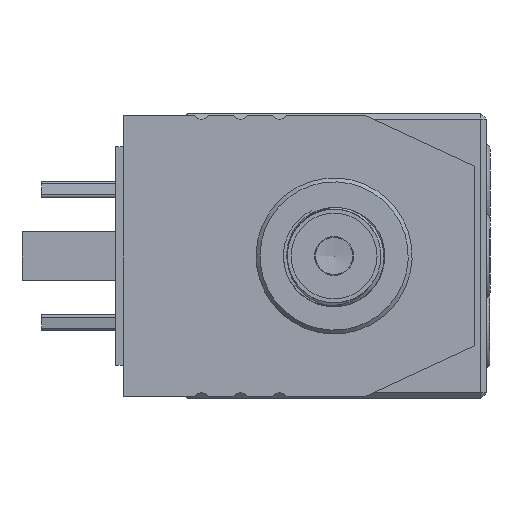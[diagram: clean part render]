
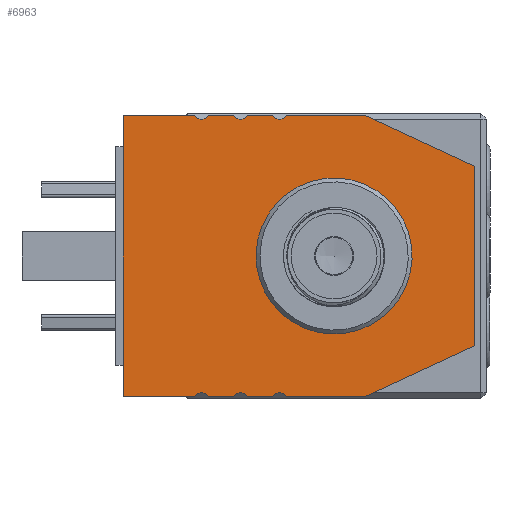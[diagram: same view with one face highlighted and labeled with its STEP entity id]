
A CAD part, left-side view. The second image highlights one B-rep face of the part: STEP entity #6963.
In plain terms, the highlighted planar face has unit normal (-1, 0, 0).
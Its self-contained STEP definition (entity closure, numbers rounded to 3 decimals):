
#916=LINE('',#14022,#1425);
#918=LINE('',#14027,#1427);
#924=LINE('',#14040,#1433);
#926=LINE('',#14045,#1435);
#932=LINE('',#14058,#1441);
#934=LINE('',#14063,#1443);
#941=LINE('',#14078,#1450);
#943=LINE('',#14083,#1452);
#953=LINE('',#14103,#1462);
#958=LINE('',#14113,#1467);
#959=LINE('',#14120,#1468);
#960=LINE('',#14124,#1469);
#1425=VECTOR('',#9890,1.);
#1427=VECTOR('',#9894,1.);
#1433=VECTOR('',#9902,1.);
#1435=VECTOR('',#9906,1.);
#1441=VECTOR('',#9914,1.);
#1443=VECTOR('',#9918,1.);
#1450=VECTOR('',#9927,1.);
#1452=VECTOR('',#9931,1.);
#1462=VECTOR('',#9947,1.);
#1467=VECTOR('',#9954,1.);
#1468=VECTOR('',#9965,1.);
#1469=VECTOR('',#9972,1.);
#1899=PLANE('',#8439);
#2491=EDGE_LOOP('',(#3942));
#2492=EDGE_LOOP('',(#3943,#3944,#3945,#3946,#3947,#3948,#3949,#3950,#3951,
#3952,#3953,#3954,#3955,#3956,#3957,#3958,#3959,#3960));
#3942=ORIENTED_EDGE('',*,*,#5081,.F.);
#3943=ORIENTED_EDGE('',*,*,#5040,.F.);
#3944=ORIENTED_EDGE('',*,*,#5082,.T.);
#3945=ORIENTED_EDGE('',*,*,#5038,.F.);
#3946=ORIENTED_EDGE('',*,*,#5083,.T.);
#3947=ORIENTED_EDGE('',*,*,#5054,.F.);
#3948=ORIENTED_EDGE('',*,*,#5084,.T.);
#3949=ORIENTED_EDGE('',*,*,#5063,.F.);
#3950=ORIENTED_EDGE('',*,*,#5085,.F.);
#3951=ORIENTED_EDGE('',*,*,#5065,.F.);
#3952=ORIENTED_EDGE('',*,*,#5086,.T.);
#3953=ORIENTED_EDGE('',*,*,#5056,.F.);
#3954=ORIENTED_EDGE('',*,*,#5087,.T.);
#3955=ORIENTED_EDGE('',*,*,#5048,.F.);
#3956=ORIENTED_EDGE('',*,*,#5088,.T.);
#3957=ORIENTED_EDGE('',*,*,#5046,.F.);
#3958=ORIENTED_EDGE('',*,*,#5089,.F.);
#3959=ORIENTED_EDGE('',*,*,#5080,.T.);
#3960=ORIENTED_EDGE('',*,*,#5075,.F.);
#5038=EDGE_CURVE('',#7822,#7820,#916,.T.);
#5040=EDGE_CURVE('',#7823,#7825,#918,.T.);
#5046=EDGE_CURVE('',#7830,#7828,#924,.T.);
#5048=EDGE_CURVE('',#7831,#7833,#926,.T.);
#5054=EDGE_CURVE('',#7838,#7836,#932,.T.);
#5056=EDGE_CURVE('',#7839,#7841,#934,.T.);
#5063=EDGE_CURVE('',#7847,#7844,#941,.T.);
#5065=EDGE_CURVE('',#7848,#7850,#943,.T.);
#5075=EDGE_CURVE('',#7825,#7857,#953,.T.);
#5080=EDGE_CURVE('',#7860,#7857,#958,.T.);
#5081=EDGE_CURVE('',#7861,#7861,#5436,.T.);
#5082=EDGE_CURVE('',#7823,#7820,#5437,.T.);
#5083=EDGE_CURVE('',#7822,#7836,#5438,.T.);
#5084=EDGE_CURVE('',#7838,#7844,#5439,.T.);
#5085=EDGE_CURVE('',#7850,#7847,#959,.T.);
#5086=EDGE_CURVE('',#7848,#7841,#5440,.T.);
#5087=EDGE_CURVE('',#7839,#7833,#5441,.T.);
#5088=EDGE_CURVE('',#7831,#7828,#5442,.T.);
#5089=EDGE_CURVE('',#7860,#7830,#960,.T.);
#5436=CIRCLE('',#8432,8.1);
#5437=CIRCLE('',#8433,1.);
#5438=CIRCLE('',#8434,1.);
#5439=CIRCLE('',#8435,1.);
#5440=CIRCLE('',#8436,1.);
#5441=CIRCLE('',#8437,1.);
#5442=CIRCLE('',#8438,1.);
#6963=ADVANCED_FACE('',(#7280,#7281),#1899,.T.);
#7280=FACE_BOUND('',#2491,.T.);
#7281=FACE_BOUND('',#2492,.T.);
#7820=VERTEX_POINT('',#14017);
#7822=VERTEX_POINT('',#14021);
#7823=VERTEX_POINT('',#14025);
#7825=VERTEX_POINT('',#14028);
#7828=VERTEX_POINT('',#14035);
#7830=VERTEX_POINT('',#14039);
#7831=VERTEX_POINT('',#14043);
#7833=VERTEX_POINT('',#14046);
#7836=VERTEX_POINT('',#14053);
#7838=VERTEX_POINT('',#14057);
#7839=VERTEX_POINT('',#14061);
#7841=VERTEX_POINT('',#14064);
#7844=VERTEX_POINT('',#14071);
#7847=VERTEX_POINT('',#14077);
#7848=VERTEX_POINT('',#14081);
#7850=VERTEX_POINT('',#14084);
#7857=VERTEX_POINT('',#14104);
#7860=VERTEX_POINT('',#14111);
#7861=VERTEX_POINT('',#14116);
#8432=AXIS2_PLACEMENT_3D('',#14115,#9957,#9958);
#8433=AXIS2_PLACEMENT_3D('',#14117,#9959,#9960);
#8434=AXIS2_PLACEMENT_3D('',#14118,#9961,#9962);
#8435=AXIS2_PLACEMENT_3D('',#14119,#9963,#9964);
#8436=AXIS2_PLACEMENT_3D('',#14121,#9966,#9967);
#8437=AXIS2_PLACEMENT_3D('',#14122,#9968,#9969);
#8438=AXIS2_PLACEMENT_3D('',#14123,#9970,#9971);
#8439=AXIS2_PLACEMENT_3D('',#14125,#9973,#9974);
#9890=DIRECTION('',(0.,-1.,0.));
#9894=DIRECTION('',(0.,-1.,0.));
#9902=DIRECTION('',(0.,1.,0.));
#9906=DIRECTION('',(0.,1.,0.));
#9914=DIRECTION('',(0.,-1.,0.));
#9918=DIRECTION('',(0.,1.,0.));
#9927=DIRECTION('',(0.,-1.,0.));
#9931=DIRECTION('',(0.,1.,0.));
#9947=DIRECTION('',(0.,-0.907,-0.421));
#9954=DIRECTION('',(0.,0.,1.));
#9957=DIRECTION('',(-1.,0.,0.));
#9958=DIRECTION('',(0.,0.,1.));
#9959=DIRECTION('',(1.,0.,0.));
#9960=DIRECTION('',(0.,0.,1.));
#9961=DIRECTION('',(1.,0.,0.));
#9962=DIRECTION('',(0.,0.,1.));
#9963=DIRECTION('',(1.,0.,0.));
#9964=DIRECTION('',(0.,0.,1.));
#9965=DIRECTION('',(0.,0.,1.));
#9966=DIRECTION('',(1.,0.,0.));
#9967=DIRECTION('',(0.,0.,1.));
#9968=DIRECTION('',(1.,0.,0.));
#9969=DIRECTION('',(0.,0.,1.));
#9970=DIRECTION('',(1.,0.,0.));
#9971=DIRECTION('',(0.,0.,1.));
#9972=DIRECTION('',(0.,0.907,-0.421));
#9973=DIRECTION('',(-1.,0.,0.));
#9974=DIRECTION('',(0.,0.,-1.));
#14017=CARTESIAN_POINT('',(59.352,154.655,18.));
#14021=CARTESIAN_POINT('',(59.352,157.923,18.));
#14022=CARTESIAN_POINT('',(59.352,173.789,18.));
#14025=CARTESIAN_POINT('',(59.352,152.923,18.));
#14027=CARTESIAN_POINT('',(59.352,173.789,18.));
#14028=CARTESIAN_POINT('',(59.352,142.789,18.));
#14035=CARTESIAN_POINT('',(59.352,152.923,-18.));
#14039=CARTESIAN_POINT('',(59.352,142.789,-18.));
#14040=CARTESIAN_POINT('',(59.352,173.789,-18.));
#14043=CARTESIAN_POINT('',(59.352,154.655,-18.));
#14045=CARTESIAN_POINT('',(59.352,173.789,-18.));
#14046=CARTESIAN_POINT('',(59.352,157.923,-18.));
#14053=CARTESIAN_POINT('',(59.352,159.655,18.));
#14057=CARTESIAN_POINT('',(59.352,162.923,18.));
#14058=CARTESIAN_POINT('',(59.352,173.789,18.));
#14061=CARTESIAN_POINT('',(59.352,159.655,-18.));
#14063=CARTESIAN_POINT('',(59.352,173.789,-18.));
#14064=CARTESIAN_POINT('',(59.352,162.923,-18.));
#14071=CARTESIAN_POINT('',(59.352,164.655,18.));
#14077=CARTESIAN_POINT('',(59.352,173.789,18.));
#14078=CARTESIAN_POINT('',(59.352,173.789,18.));
#14081=CARTESIAN_POINT('',(59.352,164.655,-18.));
#14083=CARTESIAN_POINT('',(59.352,173.789,-18.));
#14084=CARTESIAN_POINT('',(59.352,173.789,-18.));
#14103=CARTESIAN_POINT('',(59.352,130.86,12.462));
#14104=CARTESIAN_POINT('',(59.352,128.789,11.5));
#14111=CARTESIAN_POINT('',(59.352,128.789,-11.5));
#14113=CARTESIAN_POINT('',(59.352,128.789,-80.));
#14115=CARTESIAN_POINT('',(59.352,146.789,0.));
#14116=CARTESIAN_POINT('',(59.352,146.789,8.1));
#14117=CARTESIAN_POINT('',(59.352,153.789,18.5));
#14118=CARTESIAN_POINT('',(59.352,158.789,18.5));
#14119=CARTESIAN_POINT('',(59.352,163.789,18.5));
#14120=CARTESIAN_POINT('',(59.352,173.789,-80.));
#14121=CARTESIAN_POINT('',(59.352,163.789,-18.5));
#14122=CARTESIAN_POINT('',(59.352,158.789,-18.5));
#14123=CARTESIAN_POINT('',(59.352,153.789,-18.5));
#14124=CARTESIAN_POINT('',(59.352,191.973,-40.835));
#14125=CARTESIAN_POINT('',(59.352,173.789,-80.));
